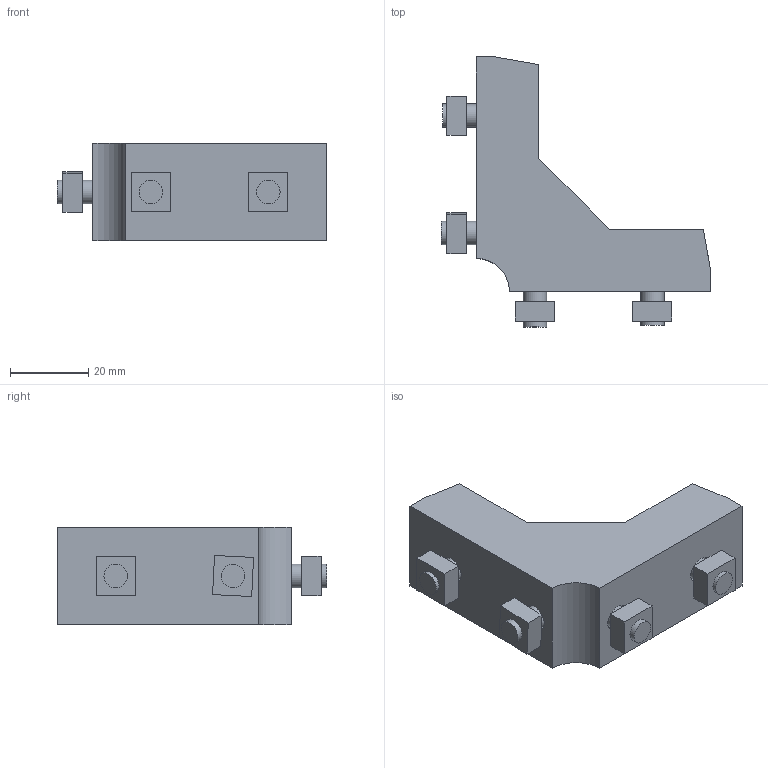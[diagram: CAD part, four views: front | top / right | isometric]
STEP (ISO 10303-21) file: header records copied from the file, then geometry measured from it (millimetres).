
FILE_DESCRIPTION((''),'2;1');
FILE_NAME('C:\Documents and Settings\古川典政\My Documents\Inventor\HP用\MasterData\BRACKET\M6\ABLRD-30-6.stp','2008-07-31T09:21:44',(''),(''),'Autodesk Inventor 2008','Autodesk Inventor 2008','');
FILE_SCHEMA(('CONFIG_CONTROL_DESIGN'));
Length unit declared in the file: millimetre
Products named in the file (10): ABLRD-30-6; ABLRD-30-61; ABLRD-30-62; ABLRD-30-63; ABLRD-30-64; ABLRD-30-65; ABLRD-30-66; ABLRD-30-67; ABLRD-30-68; ABLRD-30-69
Assembly tree (9 placements, depth 2):
  ABLRD-30-6
    ABLRD-30-61
    ABLRD-30-62
    ABLRD-30-63
    ABLRD-30-64
    ABLRD-30-65
    ABLRD-30-66
    ABLRD-30-67
    ABLRD-30-68
    ABLRD-30-69
Bounding box: 69 x 69 x 25 mm (x, y, z)
Volume: 30192.7 mm3; surface area: 16403.7 mm2
Topology: 9 solids, 9 shells, 93 faces, 203 edges, 138 vertices
Faces by surface type: plane 71, cylinder 14, bspline 8
Full cylindrical faces by diameter (mm): 6 x4, 6.4 x2, 7 x2, 10 x2, 11 x1, 13 x2
Entity records: 2769 total; most frequent: CARTESIAN_POINT 539, DIRECTION 425, ORIENTED_EDGE 350, EDGE_CURVE 175, AXIS2_PLACEMENT_3D 146, EDGE_LOOP 139, VECTOR 133, LINE 133
